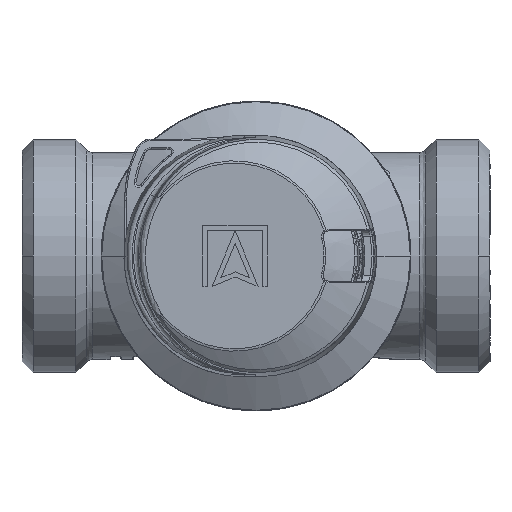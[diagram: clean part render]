
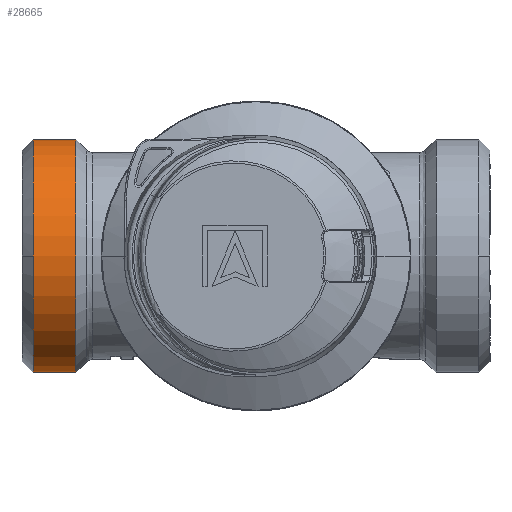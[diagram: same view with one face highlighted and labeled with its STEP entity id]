
A CAD part, front view. The second image highlights one B-rep face of the part: STEP entity #28665.
In plain terms, the highlighted cylindrical face has radius 20.955 mm (diameter 41.91 mm), a partial arc.
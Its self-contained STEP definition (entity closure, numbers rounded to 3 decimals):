
#1536 = VECTOR ( 'NONE', #59401, 1000. ) ;
#4563 = CARTESIAN_POINT ( 'NONE',  ( -32.355, 0., -20.955 ) ) ;
#7745 = EDGE_CURVE ( 'NONE', #88423, #83856, #154546, .T. ) ;
#8133 = FACE_OUTER_BOUND ( 'NONE', #13169, .T. ) ;
#13169 = EDGE_LOOP ( 'NONE', ( #117100, #60261, #38463, #42442, #120031 ) ) ;
#16854 = CIRCLE ( 'NONE', #170324, 20.955 ) ;
#22606 = DIRECTION ( 'NONE',  ( 1., 0., 0. ) ) ;
#28665 = ADVANCED_FACE ( 'NONE', ( #8133 ), #82937, .T. ) ;
#38463 = ORIENTED_EDGE ( 'NONE', *, *, #93347, .T. ) ;
#42442 = ORIENTED_EDGE ( 'NONE', *, *, #184819, .T. ) ;
#51306 = CARTESIAN_POINT ( 'NONE',  ( -40., 0., 20.955 ) ) ;
#52089 = VERTEX_POINT ( 'NONE', #80031 ) ;
#57517 = CARTESIAN_POINT ( 'NONE',  ( -52.509, 0., 20.955 ) ) ;
#58801 = DIRECTION ( 'NONE',  ( 0., 0., 1. ) ) ;
#59401 = DIRECTION ( 'NONE',  ( -1., 0., 0. ) ) ;
#60261 = ORIENTED_EDGE ( 'NONE', *, *, #87050, .F. ) ;
#64676 = CARTESIAN_POINT ( 'NONE',  ( -40., 0., 0. ) ) ;
#72426 = CARTESIAN_POINT ( 'NONE',  ( -52.509, 0., -20.955 ) ) ;
#79153 = EDGE_CURVE ( 'NONE', #52089, #83856, #94182, .T. ) ;
#80031 = CARTESIAN_POINT ( 'NONE',  ( -40., -20.955, 0. ) ) ;
#82937 = CYLINDRICAL_SURFACE ( 'NONE', #118402, 20.955 ) ;
#83856 = VERTEX_POINT ( 'NONE', #91864 ) ;
#86242 = CARTESIAN_POINT ( 'NONE',  ( -40., 0., 0. ) ) ;
#87050 = EDGE_CURVE ( 'NONE', #144725, #88423, #133206, .T. ) ;
#87638 = DIRECTION ( 'NONE',  ( -1., 0., 0. ) ) ;
#88123 = DIRECTION ( 'NONE',  ( 1., 0., 0. ) ) ;
#88423 = VERTEX_POINT ( 'NONE', #4563 ) ;
#91864 = CARTESIAN_POINT ( 'NONE',  ( -40., 0., -20.955 ) ) ;
#93347 = EDGE_CURVE ( 'NONE', #144725, #146101, #116096, .T. ) ;
#94182 = CIRCLE ( 'NONE', #131178, 20.955 ) ;
#98736 = DIRECTION ( 'NONE',  ( 0., 0., 1. ) ) ;
#101997 = CARTESIAN_POINT ( 'NONE',  ( -52.509, 0., 0. ) ) ;
#104354 = DIRECTION ( 'NONE',  ( 0., -1., 0. ) ) ;
#107856 = DIRECTION ( 'NONE',  ( 0., 0., 1. ) ) ;
#113157 = DIRECTION ( 'NONE',  ( 1., 0., 0. ) ) ;
#114750 = AXIS2_PLACEMENT_3D ( 'NONE', #190122, #88123, #104354 ) ;
#116096 = LINE ( 'NONE', #57517, #1536 ) ;
#117100 = ORIENTED_EDGE ( 'NONE', *, *, #7745, .F. ) ;
#118402 = AXIS2_PLACEMENT_3D ( 'NONE', #101997, #87638, #58801 ) ;
#120031 = ORIENTED_EDGE ( 'NONE', *, *, #79153, .T. ) ;
#121803 = CARTESIAN_POINT ( 'NONE',  ( -32.355, 0., 20.955 ) ) ;
#129235 = DIRECTION ( 'NONE',  ( -1., 0., 0. ) ) ;
#131178 = AXIS2_PLACEMENT_3D ( 'NONE', #86242, #113157, #98736 ) ;
#133206 = CIRCLE ( 'NONE', #114750, 20.955 ) ;
#144725 = VERTEX_POINT ( 'NONE', #121803 ) ;
#146101 = VERTEX_POINT ( 'NONE', #51306 ) ;
#151250 = VECTOR ( 'NONE', #129235, 1000. ) ;
#154546 = LINE ( 'NONE', #72426, #151250 ) ;
#170324 = AXIS2_PLACEMENT_3D ( 'NONE', #64676, #22606, #107856 ) ;
#184819 = EDGE_CURVE ( 'NONE', #146101, #52089, #16854, .T. ) ;
#190122 = CARTESIAN_POINT ( 'NONE',  ( -32.355, 0., 0. ) ) ;
